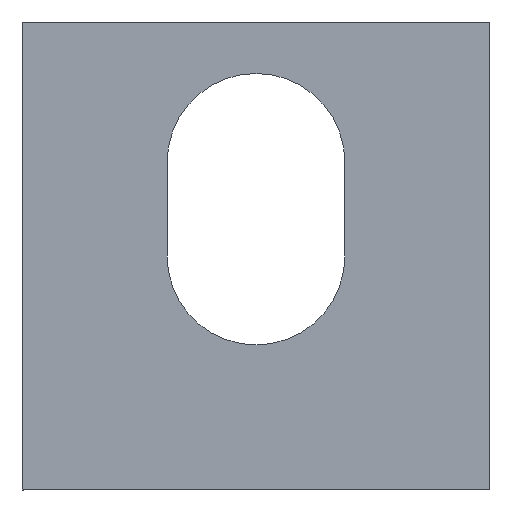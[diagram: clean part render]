
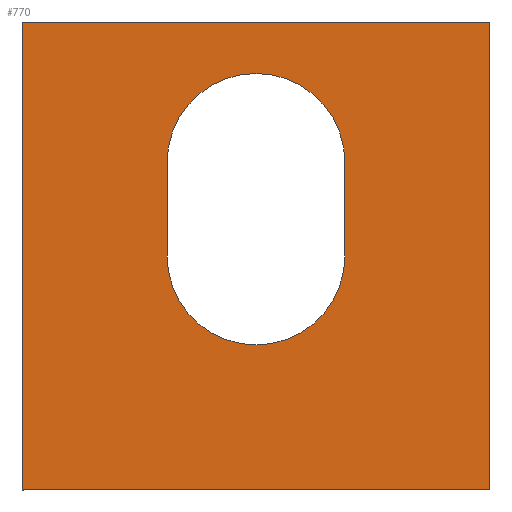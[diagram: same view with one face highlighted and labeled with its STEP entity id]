
A CAD part, front view. The second image highlights one B-rep face of the part: STEP entity #770.
In plain terms, the highlighted planar face has unit normal (0, -1, 0).
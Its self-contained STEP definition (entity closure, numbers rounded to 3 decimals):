
#366=CIRCLE('',#739,9.5);
#367=CIRCLE('',#740,9.5);
#374=ORIENTED_EDGE('',*,*,#518,.T.);
#375=ORIENTED_EDGE('',*,*,#519,.F.);
#376=ORIENTED_EDGE('',*,*,#520,.F.);
#377=ORIENTED_EDGE('',*,*,#521,.T.);
#378=ORIENTED_EDGE('',*,*,#522,.T.);
#379=ORIENTED_EDGE('',*,*,#523,.T.);
#380=ORIENTED_EDGE('',*,*,#524,.T.);
#381=ORIENTED_EDGE('',*,*,#525,.T.);
#442=VECTOR('',#598,1.);
#443=VECTOR('',#599,1.);
#444=VECTOR('',#600,1.);
#445=VECTOR('',#601,1.);
#446=VECTOR('',#604,1.);
#447=VECTOR('',#607,1.);
#468=LINE('',#669,#442);
#469=LINE('',#671,#443);
#470=LINE('',#673,#444);
#471=LINE('',#674,#445);
#472=LINE('',#679,#446);
#473=LINE('',#682,#447);
#494=VERTEX_POINT('',#667);
#495=VERTEX_POINT('',#668);
#496=VERTEX_POINT('',#670);
#497=VERTEX_POINT('',#672);
#498=VERTEX_POINT('',#675);
#499=VERTEX_POINT('',#676);
#500=VERTEX_POINT('',#678);
#501=VERTEX_POINT('',#680);
#518=EDGE_CURVE('',#494,#495,#468,.T.);
#519=EDGE_CURVE('',#496,#495,#469,.T.);
#520=EDGE_CURVE('',#497,#496,#470,.T.);
#521=EDGE_CURVE('',#497,#494,#471,.T.);
#522=EDGE_CURVE('',#498,#499,#366,.T.);
#523=EDGE_CURVE('',#499,#500,#472,.T.);
#524=EDGE_CURVE('',#500,#501,#367,.T.);
#525=EDGE_CURVE('',#501,#498,#473,.T.);
#552=EDGE_LOOP('',(#374,#375,#376,#377));
#553=EDGE_LOOP('',(#378,#379,#380,#381));
#574=FACE_BOUND('',#552,.T.);
#575=FACE_BOUND('',#553,.T.);
#596=DIRECTION('',(0.,-1.,0.));
#597=DIRECTION('',(-1.,0.,0.));
#598=DIRECTION('',(-50.,0.,0.));
#599=DIRECTION('',(0.,0.,50.));
#600=DIRECTION('',(-50.,0.,0.));
#601=DIRECTION('',(0.,0.,50.));
#602=DIRECTION('',(0.,1.,0.));
#603=DIRECTION('',(-9.5,0.,0.));
#604=DIRECTION('',(0.,0.,-10.));
#605=DIRECTION('',(0.,1.,0.));
#606=DIRECTION('',(-9.5,0.,0.));
#607=DIRECTION('',(0.,0.,10.));
#666=CARTESIAN_POINT('',(50.,-75.,50.));
#667=CARTESIAN_POINT('',(50.,-75.,50.));
#668=CARTESIAN_POINT('',(0.,-75.,50.));
#669=CARTESIAN_POINT('',(50.,-75.,50.));
#670=CARTESIAN_POINT('',(0.,-75.,0.));
#671=CARTESIAN_POINT('',(0.,-75.,0.));
#672=CARTESIAN_POINT('',(50.,-75.,0.));
#673=CARTESIAN_POINT('',(50.,-75.,0.));
#674=CARTESIAN_POINT('',(50.,-75.,0.));
#675=CARTESIAN_POINT('',(15.5,-75.,35.));
#676=CARTESIAN_POINT('',(34.5,-75.,35.));
#677=CARTESIAN_POINT('',(25.,-75.,35.));
#678=CARTESIAN_POINT('',(34.5,-75.,25.));
#679=CARTESIAN_POINT('',(34.5,-75.,35.));
#680=CARTESIAN_POINT('',(15.5,-75.,25.));
#681=CARTESIAN_POINT('',(25.,-75.,25.));
#682=CARTESIAN_POINT('',(15.5,-75.,25.));
#738=AXIS2_PLACEMENT_3D('',#666,#596,#597);
#739=AXIS2_PLACEMENT_3D('',#677,#602,#603);
#740=AXIS2_PLACEMENT_3D('',#681,#605,#606);
#760=PLANE('',#738);
#770=ADVANCED_FACE('',(#574,#575),#760,.T.);
